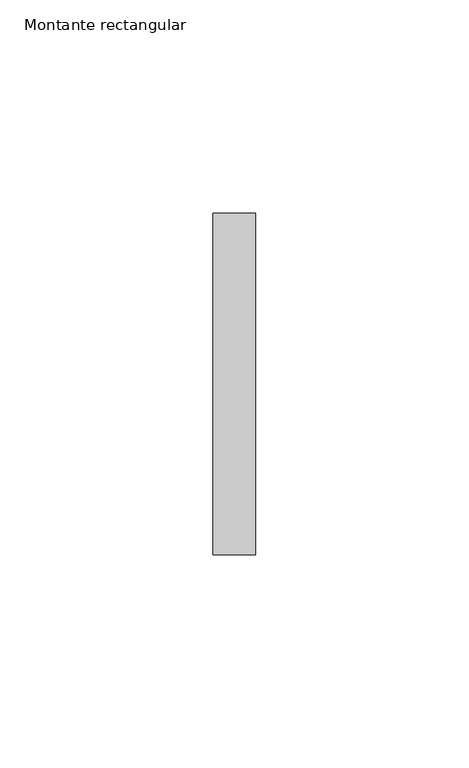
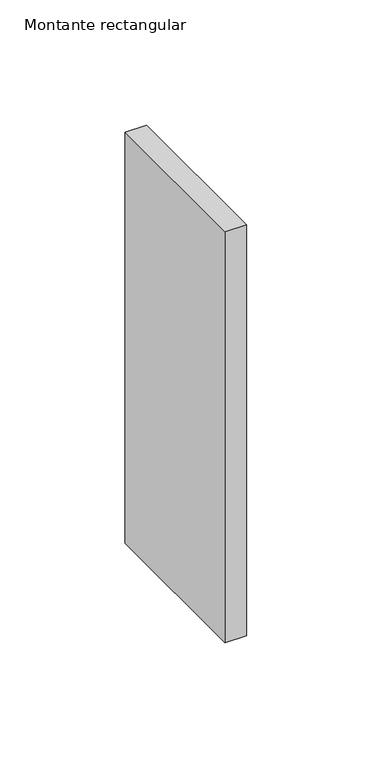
"""IFC4 building model written with IfcOpenShell, lengths in millimetres: member geometry, Montante rectangular : Junta de paves."""

from ifc_helpers import new_model, si_unit, frame, origin, place, context, project, spatial, polyline, outline, extrude, source, transform, mapped, element, save


def montante_rectangular_c2f012c7(model_context):
    return source(origin(), model_context, "Body", "SweptSolid", [
        extrude(outline(polyline([(0.0, 40.0), (0.0, -40.0), (-10.0, -40.0), (-10.0, 40.0), (0.0, 40.0)])), frame((0.0, 0.0, -200.5555556), z_axis=(0.0, 0.0, 1.0), x_axis=(1.0, 0.0, 0.0)), (0.0, 0.0, 1.0), 200.5555556),
    ])


if __name__ == "__main__":
    model = new_model("IFC4")
    model_context = context("Model", 3, world=origin())
    ifc_project = project(units=[si_unit("LENGTHUNIT", "METRE", prefix="MILLI")], contexts=[model_context])
    site = spatial("IfcSite", under=ifc_project)
    building = spatial("IfcBuilding", under=site)
    placement = place(None, origin())
    montante_rectangular_shape = montante_rectangular_c2f012c7(model_context)
    element("IfcMember", 1, ObjectType="Montante rectangular : Junta de paves", at=placement, inside=building, context=model_context, shape_type="MappedRepresentation", body=[
        mapped(montante_rectangular_shape, transform((0.0, 0.0, 0.0), x_axis=(1.0, 0.0, 0.0), y_axis=(0.0, 1.0, 0.0), z_axis=(0.0, 0.0, 1.0))),
    ])
    save(model, "model.ifc")
